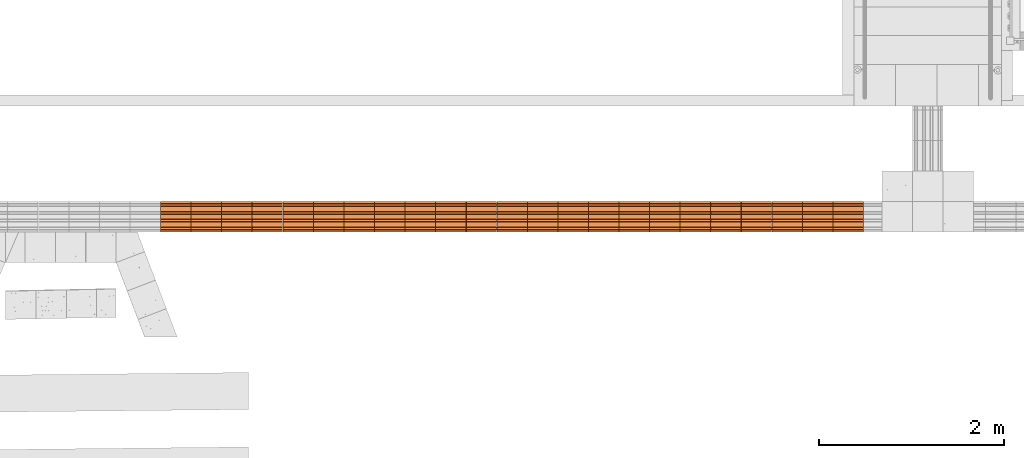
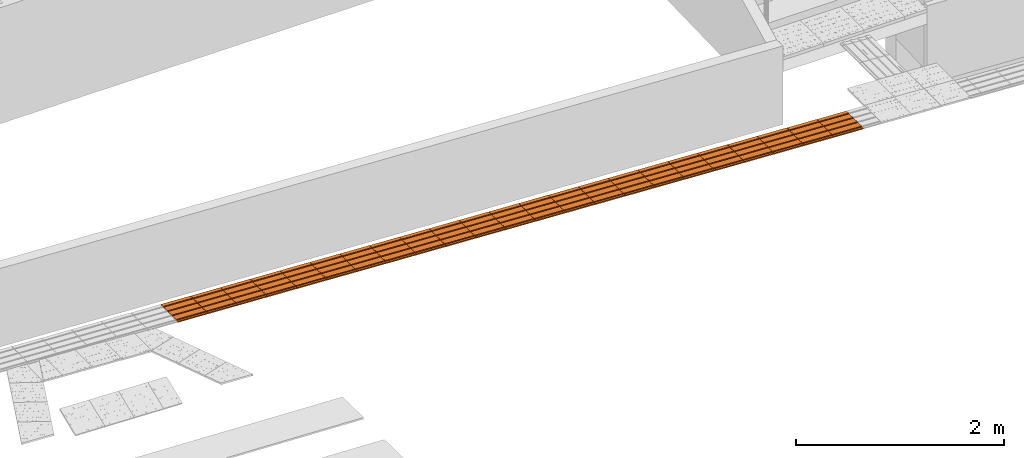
# One storey, part 162 of 237: 23 proxies.
"""IFC2X3 building model written with IfcOpenShell, lengths in millimetres."""

from ifc_helpers import new_model, entity, si_unit, converted_unit, derived_unit, money_unit, direction, frame, origin_with_axes, place, context, subcontext, project, spatial, open_shell, surface_model, source, transform, mapped, type_object, element, save


model = new_model("IFC2X3")

# Units and contexts
model_context = context("Model", 3, precision=0.01, world=origin_with_axes(), true_north=direction((0.0, 1.0)))
body_context = subcontext(model_context, "Body", "Model", "MODEL_VIEW")
ifc_project = project(units=[si_unit("LENGTHUNIT", "METRE", prefix="MILLI"), si_unit("AREAUNIT", "SQUARE_METRE"), si_unit("VOLUMEUNIT", "CUBIC_METRE"), converted_unit("PLANEANGLEUNIT", "DEGREE", entity("IfcPlaneAngleMeasure", 0.0174532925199), si_unit("PLANEANGLEUNIT", "RADIAN"), dimensions=[0, 0, 0, 0, 0, 0, 0]), money_unit("USD"), converted_unit("TIMEUNIT", "Year", entity("IfcTimeMeasure", 31556926.0), si_unit("TIMEUNIT", "SECOND"), dimensions=[0, 0, 1, 0, 0, 0, 0]), si_unit("MASSUNIT", "GRAM", prefix="KILO"), si_unit("THERMODYNAMICTEMPERATUREUNIT", "DEGREE_CELSIUS"), si_unit("LUMINOUSINTENSITYUNIT", "LUMEN"), si_unit("ENERGYUNIT", "JOULE", prefix="MEGA"), derived_unit("THERMALCONDUCTANCEUNIT", [(si_unit("POWERUNIT", "WATT"), 1), (si_unit("LENGTHUNIT", "METRE"), -1), (si_unit("THERMODYNAMICTEMPERATUREUNIT", "KELVIN"), -1)]), derived_unit("SPECIFICHEATCAPACITYUNIT", [(si_unit("ENERGYUNIT", "JOULE"), 1), (si_unit("MASSUNIT", "GRAM", prefix="KILO"), -1), (si_unit("THERMODYNAMICTEMPERATUREUNIT", "KELVIN"), -1)]), derived_unit("MASSDENSITYUNIT", [(si_unit("MASSUNIT", "GRAM", prefix="KILO"), 1), (si_unit("VOLUMEUNIT", "CUBIC_METRE"), -1)])], contexts=[model_context])

# Site, building, storey
site_placement = place(None, origin_with_axes())
site = spatial("IfcSite", under=ifc_project, at=site_placement, Name="Local", CompositionType="ELEMENT")
building_placement = place(site_placement, origin_with_axes())
building = spatial("IfcBuilding", under=site, at=building_placement, Name="Construção", CompositionType="ELEMENT")
storey_placement = place(building_placement, origin_with_axes())
storey = spatial("IfcBuildingStorey", under=building, at=storey_placement, Name="Pavimento Térreo", CompositionType="ELEMENT", Elevation=0.0)

# Proxies
building_element_proxy_type = type_object("IfcBuildingElementProxyType", Name="Piso Direcional 27", PredefinedType="NOTDEFINED")
shared_shape = source(origin_with_axes(), body_context, "Body", "SurfaceModel", [
    surface_model("IfcShellBasedSurfaceModel", [(-0.196792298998, -47.258225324, 4.02371099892), (329.409233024, -47.258225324, 20.1441350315), (329.083567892, -41.665004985, 26.8028426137), (-0.522457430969, -41.665004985, 10.6824185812)], [open_shell([[[0, 1, 2, 3]]])]),
    surface_model("IfcShellBasedSurfaceModel", [(330.060563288, -153.529411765, 6.82671986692), (330.060563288, 176.470588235, 6.82671986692), (329.409233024, 176.470588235, 20.1441350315), (329.409233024, 154.097706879, 20.1441350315), (329.083567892, 148.50448654, 26.8028426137), (329.083567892, 126.131605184, 26.8028426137), (329.409233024, 120.538384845, 20.1441350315), (329.409233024, 70.1994017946, 20.1441350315), (329.083567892, 64.6061814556, 26.8028426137), (329.083567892, 42.2333000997, 26.8028426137), (329.409233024, 36.6400797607, 20.1441350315), (329.409233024, -13.6989032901, 20.1441350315), (329.083567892, -19.2921236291, 26.8028426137), (329.083567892, -41.665004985, 26.8028426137), (329.409233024, -47.258225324, 20.1441350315), (329.409233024, -97.5972083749, 20.1441350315), (329.083567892, -103.190428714, 26.8028426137), (329.083567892, -125.56331007, 26.8028426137), (329.409233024, -131.156530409, 20.1441350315), (329.409233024, -153.529411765, 20.1441350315)], [open_shell([[[0, 1, 2, 3, 4, 5, 6, 7, 8, 9, 10, 11, 12, 13, 14, 15, 16, 17, 18, 19]]])]),
    surface_model("IfcShellBasedSurfaceModel", [(-0.522457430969, -19.2921236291, 10.6824185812), (329.083567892, -19.2921236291, 26.8028426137), (329.409233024, -13.6989032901, 20.1441350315), (-0.196792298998, -13.6989032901, 4.02371099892)], [open_shell([[[0, 1, 2, 3]]])]),
    surface_model("IfcShellBasedSurfaceModel", [(-0.522457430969, -103.190428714, 10.6824185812), (329.083567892, -103.190428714, 26.8028426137), (329.409233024, -97.5972083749, 20.1441350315), (-0.196792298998, -97.5972083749, 4.02371099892)], [open_shell([[[0, 1, 2, 3]]])]),
    surface_model("IfcShellBasedSurfaceModel", [(-0.522457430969, 64.6061814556, 10.6824185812), (329.083567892, 64.6061814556, 26.8028426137), (329.409233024, 70.1994017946, 20.1441350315), (-0.196792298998, 70.1994017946, 4.02371099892)], [open_shell([[[0, 1, 2, 3]]])]),
    surface_model("IfcShellBasedSurfaceModel", [(-0.196792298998, 36.6400797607, 4.02371099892), (329.409233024, 36.6400797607, 20.1441350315), (329.083567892, 42.2333000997, 26.8028426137), (-0.522457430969, 42.2333000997, 10.6824185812)], [open_shell([[[0, 1, 2, 3]]])]),
    surface_model("IfcShellBasedSurfaceModel", [(-0.196792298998, -131.156530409, 4.02371099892), (329.409233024, -131.156530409, 20.1441350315), (329.083567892, -125.56331007, 26.8028426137), (-0.522457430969, -125.56331007, 10.6824185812)], [open_shell([[[0, 1, 2, 3]]])]),
    surface_model("IfcShellBasedSurfaceModel", [(-0.196792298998, 176.470588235, 4.02371099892), (-0.196792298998, 154.097706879, 4.02371099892), (329.409233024, 154.097706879, 20.1441350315), (329.409233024, 176.470588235, 20.1441350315)], [open_shell([[[0, 1, 2, 3]]])]),
    surface_model("IfcShellBasedSurfaceModel", [(-0.196792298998, 120.538384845, 4.02371099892), (329.409233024, 120.538384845, 20.1441350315), (329.083567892, 126.131605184, 26.8028426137), (-0.522457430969, 126.131605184, 10.6824185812)], [open_shell([[[0, 1, 2, 3]]])]),
    surface_model("IfcShellBasedSurfaceModel", [(-0.522457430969, 148.50448654, 10.6824185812), (329.083567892, 148.50448654, 26.8028426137), (329.409233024, 154.097706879, 20.1441350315), (-0.196792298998, 154.097706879, 4.02371099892)], [open_shell([[[0, 1, 2, 3]]])]),
    surface_model("IfcShellBasedSurfaceModel", [(-0.196792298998, 36.6400797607, 4.02371099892), (-0.196792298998, -13.6989032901, 4.02371099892), (329.409233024, -13.6989032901, 20.1441350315), (329.409233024, 36.6400797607, 20.1441350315)], [open_shell([[[0, 1, 2, 3]]])]),
    surface_model("IfcShellBasedSurfaceModel", [(-0.196792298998, 120.538384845, 4.02371099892), (-0.196792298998, 70.1994017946, 4.02371099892), (329.409233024, 70.1994017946, 20.1441350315), (329.409233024, 120.538384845, 20.1441350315)], [open_shell([[[0, 1, 2, 3]]])]),
    surface_model("IfcShellBasedSurfaceModel", [(-0.522457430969, 148.50448654, 10.6824185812), (-0.522457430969, 126.131605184, 10.6824185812), (329.083567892, 126.131605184, 26.8028426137), (329.083567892, 148.50448654, 26.8028426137)], [open_shell([[[0, 1, 2, 3]]])]),
    surface_model("IfcShellBasedSurfaceModel", [(-0.196792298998, 120.538384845, 4.02371099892), (-0.522457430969, 126.131605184, 10.6824185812), (-0.522457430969, 148.50448654, 10.6824185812), (-0.196792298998, 154.097706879, 4.02371099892), (-0.196792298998, 176.470588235, 4.02371099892), (0.454537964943, 176.470588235, -9.29370416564), (0.454537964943, -153.529411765, -9.29370416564), (-0.196792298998, -153.529411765, 4.02371099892), (-0.196792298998, -131.156530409, 4.02371099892), (-0.522457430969, -125.56331007, 10.6824185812), (-0.522457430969, -103.190428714, 10.6824185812), (-0.196792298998, -97.5972083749, 4.02371099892), (-0.196792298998, -47.258225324, 4.02371099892), (-0.522457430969, -41.665004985, 10.6824185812), (-0.522457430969, -19.2921236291, 10.6824185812), (-0.196792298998, -13.6989032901, 4.02371099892), (-0.196792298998, 36.6400797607, 4.02371099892), (-0.522457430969, 42.2333000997, 10.6824185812), (-0.522457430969, 64.6061814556, 10.6824185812), (-0.196792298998, 70.1994017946, 4.02371099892)], [open_shell([[[0, 1, 2, 3, 4, 5, 6, 7, 8, 9, 10, 11, 12, 13, 14, 15, 16, 17, 18, 19]]])]),
    surface_model("IfcShellBasedSurfaceModel", [(329.083567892, -41.665004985, 26.8028426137), (329.083567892, -19.2921236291, 26.8028426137), (-0.522457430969, -19.2921236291, 10.6824185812), (-0.522457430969, -41.665004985, 10.6824185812)], [open_shell([[[0, 1, 2, 3]]])]),
    surface_model("IfcShellBasedSurfaceModel", [(-0.196792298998, -47.258225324, 4.02371099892), (-0.196792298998, -97.5972083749, 4.02371099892), (329.409233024, -97.5972083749, 20.1441350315), (329.409233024, -47.258225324, 20.1441350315)], [open_shell([[[0, 1, 2, 3]]])]),
    surface_model("IfcShellBasedSurfaceModel", [(329.083567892, 42.2333000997, 26.8028426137), (329.083567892, 64.6061814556, 26.8028426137), (-0.522457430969, 64.6061814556, 10.6824185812), (-0.522457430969, 42.2333000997, 10.6824185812)], [open_shell([[[0, 1, 2, 3]]])]),
    surface_model("IfcShellBasedSurfaceModel", [(329.083567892, -125.56331007, 26.8028426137), (329.083567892, -103.190428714, 26.8028426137), (-0.522457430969, -103.190428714, 10.6824185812), (-0.522457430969, -125.56331007, 10.6824185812)], [open_shell([[[0, 1, 2, 3]]])]),
    surface_model("IfcShellBasedSurfaceModel", [(330.060563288, 176.470588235, 6.82671986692), (0.454537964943, 176.470588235, -9.29370416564), (-0.196792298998, 176.470588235, 4.02371099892), (329.409233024, 176.470588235, 20.1441350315)], [open_shell([[[0, 1, 2, 3]]])]),
    surface_model("IfcShellBasedSurfaceModel", [(330.060563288, -153.529411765, 6.82671986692), (0.454537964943, -153.529411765, -9.29370416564), (0.454537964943, 176.470588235, -9.29370416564), (330.060563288, 176.470588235, 6.82671986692)], [open_shell([[[0, 1, 2, 3]]])]),
    surface_model("IfcShellBasedSurfaceModel", [(329.409233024, -153.529411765, 20.1441350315), (329.409233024, -131.156530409, 20.1441350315), (-0.196792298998, -131.156530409, 4.02371099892), (-0.196792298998, -153.529411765, 4.02371099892)], [open_shell([[[0, 1, 2, 3]]])]),
    surface_model("IfcShellBasedSurfaceModel", [(0.454537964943, -153.529411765, -9.29370416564), (330.060563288, -153.529411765, 6.82671986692), (329.409233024, -153.529411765, 20.1441350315), (-0.196792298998, -153.529411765, 4.02371099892)], [open_shell([[[0, 1, 2, 3]]])]),
])
for number, where, z_axis, x_axis, name in (
    (1, (36698.1027891, 10834.0941893, -2867.83706537), (0.0, 0.0, 1.0), (-1.0, 0.0, 0.0), "Objeto-0055"),
    (2, (39013.0661786, 10834.0941893, -2988.6302321), (0.0, 0.0, 1.0), (-1.0, 0.0, 0.0), "Objeto-0055"),
    (3, (38682.4435593, 10834.0941893, -2971.36517468), (0.0, 0.0, 1.0), (-1.0, 0.0, 0.0), "Objeto-0055"),
    (4, (38351.8209401, 10834.0941893, -2954.10011725), (0.0, 0.0, 1.0), (-1.0, 0.0, 0.0), "Objeto-0055"),
    (5, (35705.3273491, 10834.0941893, -2816.13524597), (0.0, 0.0, 1.0), (-1.0, 0.0, 0.0), "Objeto-0055"),
    (6, (36367.1776424, 10834.0941893, -2850.60312557), (0.0, 0.0, 1.0), (-1.0, 0.0, 0.0), "Objeto-0055"),
    (7, (40666.1792748, 10834.0941893, -3074.95551923), (0.0, 0.0, 1.0), (-1.0, 0.0, 0.0), "Objeto-0055"),
    (8, (40335.5566555, 10834.0941893, -3057.6904618), (0.0, 0.0, 1.0), (-1.0, 0.0, 0.0), "Objeto-0055"),
    (9, (40004.9340363, 10834.0941893, -3040.42540438), (0.0, 0.0, 1.0), (-1.0, 0.0, 0.0), "Objeto-0055"),
    (10, (39343.6887978, 10834.0941893, -3005.89528953), (0.0, 0.0, 1.0), (-1.0, 0.0, 0.0), "Objeto-0055"),
    (11, (33390.1704439, 10834.0941893, -2696.61118313), (0.0, 0.0, 1.0), (-1.0, 0.0, 0.0), "Objeto-0055"),
    (12, (35043.4770558, 10834.0941893, -2781.66736637), (0.0, 0.0, 1.0), (-1.0, 0.0, 0.0), "Objeto-0055"),
    (13, (35374.4022025, 10834.0941893, -2798.90130617), (0.0, 0.0, 1.0), (-1.0, 0.0, 0.0), "Objeto-0055"),
    (14, (33721.0955906, 10834.0941893, -2713.84512293), (0.0, 0.0, 1.0), (-1.0, 0.0, 0.0), "Objeto-0055"),
    (15, (36036.2524958, 10834.0941893, -2833.36918577), (0.0, 0.0, 1.0), (-1.0, 0.0, 0.0), "Objeto-0055"),
    (16, (34712.5519092, 10834.0941893, -2764.43342656), (0.0, 0.0, 1.0), (-1.0, 0.0, 0.0), "Objeto-0055"),
    (17, (37029.0279357, 10834.0941893, -2885.07100517), (0.0, 0.0, 1.0), (-1.0, 0.0, 0.0), "Objeto-0055"),
    (18, (39674.3114171, 10834.0941893, -3023.16034695), (0.0, 0.0, 1.0), (-1.0, 0.0, 0.0), "Objeto-0055"),
    (19, (37359.9530824, 10834.0941893, -2902.30494497), (0.0, 0.0, 1.0), (-1.0, 0.0, 0.0), "Objeto-0055"),
    (20, (38021.1983208, 10834.0941893, -2936.83505982), (0.0, 0.0, 1.0), (-1.0, 0.0, 0.0), "Objeto-0055"),
    (21, (37690.5757016, 10834.0941893, -2919.5700024), (0.0, 0.0, 1.0), (-1.0, 0.0, 0.0), "Objeto-0055"),
    (22, (34050.7016159, 10834.0941893, -2729.96554696), (0.0, 0.0, 1.0), (-1.0, 0.0, 0.0), "Objeto-0055"),
    (23, (34381.6267626, 10834.0941893, -2747.19948676), (0.0, 0.0, 1.0), (-1.0, 0.0, 0.0), "Objeto-0055"),
):
    element("IfcBuildingElementProxy", number, at=place(storey_placement, frame(where, z_axis=z_axis, x_axis=x_axis)), inside=storey, type_object=building_element_proxy_type, Name=name, context=body_context, shape_type="MappedRepresentation", body=[
        mapped(shared_shape, transform((0.0, 0.0, 0.0))),
    ])

save(model, "model.ifc")
